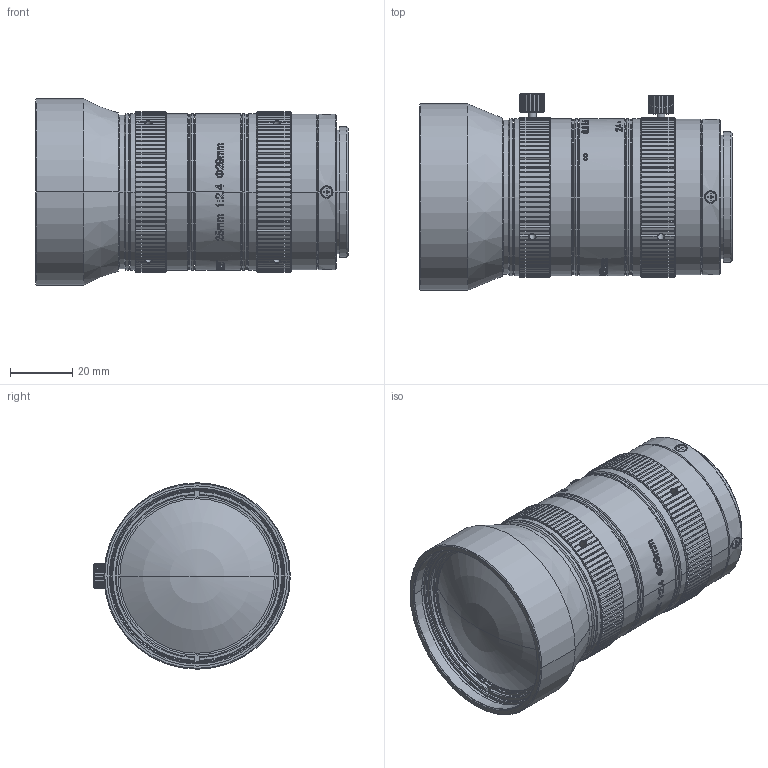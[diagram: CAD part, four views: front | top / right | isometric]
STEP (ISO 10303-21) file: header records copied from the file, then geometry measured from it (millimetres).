
FILE_DESCRIPTION((''),'2;1');
FILE_NAME('LBG_25MM_--06_2900_ASM','2023-06-29T16:38:39',('Administrator'),(''),'CREO PARAMETRIC BY PTC INC, 2021063','CREO PARAMETRIC BY PTC INC, 2021063','');
FILE_SCHEMA(('AUTOMOTIVE_DESIGN { 1 0 10303 214 1 1 1 1 }'));
Length unit declared in the file: millimetre
Products named in the file (22): G1J_6_1_1; G10_2_1_1; 00_149_1_1; 25MM00_ASM_17_ASM_1_ASM_1_ASM; 000_134_1_1; M42-P1_35_1_1; CAM0_128_1_1; 000_137_1_1; 000_115_1_1; 100_8_1_1; 200_12_1_1; LBG-601_16_1_1; M2X6D500_10_1_1; LBG-602_10_1_1; LBG-603000_9_1_1; 99259925-12000_22_1_1; M1D6X4D500_6_1_1; M2X4WT00_5_1_1; LBG000_ASM_186_ASM_1_ASM_1_ASM; LBG000_ASM_ASM_1_ASM_1_ASM; LBG_25MM_00_ASM_1_ASM; LBG_25MM_--06_2900_ASM
Assembly tree (25 placements, depth 6):
  LBG_25MM_--06_2900_ASM
    LBG_25MM_00_ASM_1_ASM
      LBG000_ASM_ASM_1_ASM_1_ASM
        LBG000_ASM_186_ASM_1_ASM_1_ASM
          25MM00_ASM_17_ASM_1_ASM_1_ASM
            G1J_6_1_1
            G10_2_1_1
            00_149_1_1
          000_134_1_1
          M42-P1_35_1_1
          CAM0_128_1_1
          000_137_1_1
          000_115_1_1
          100_8_1_1
          200_12_1_1
          LBG-601_16_1_1
          M2X6D500_10_1_1  x4
          LBG-602_10_1_1
          LBG-603000_9_1_1
          99259925-12000_22_1_1  x2
          M1D6X4D500_6_1_1
          M2X4WT00_5_1_1
Bounding box: 100.68 x 63.28 x 60 mm (x, y, z)
Volume: 148071.1 mm3; surface area: 82167.4 mm2
Topology: 21 solids, 44 shells, 2955 faces, 8514 edges, 5692 vertices
Faces by surface type: plane 853, cylinder 809, cone 617, bspline 416, extrusion 232, torus 20, sphere 8
Entity records: 153166 total; most frequent: CARTESIAN_POINT 61606, ORIENTED_EDGE 15766, DIRECTION 11877, EDGE_CURVE 7929, PRESENTATION_STYLE_ASSIGNMENT 5769, STYLED_ITEM 5759, VERTEX_POINT 5316, CURVE_STYLE 4566
